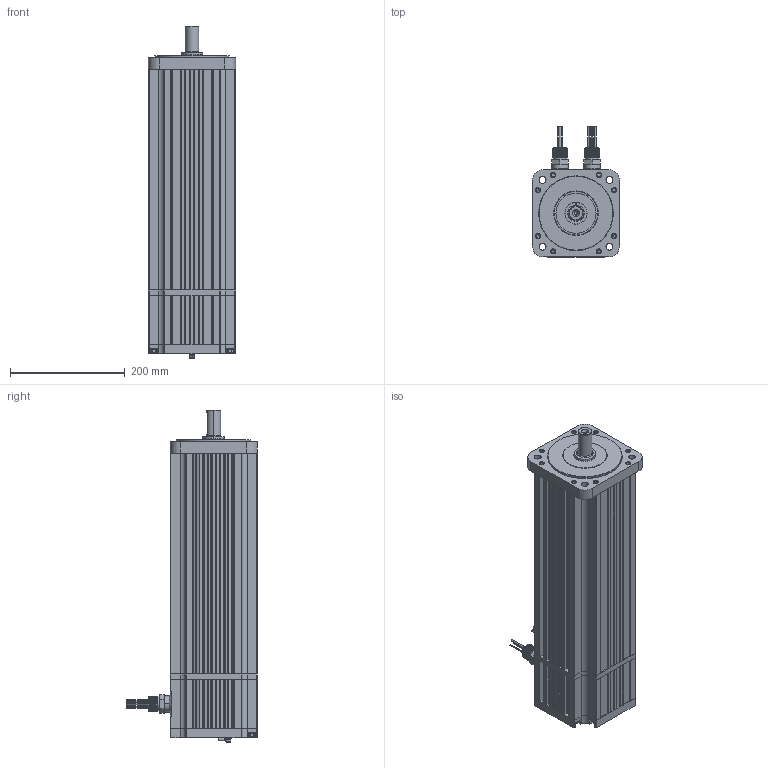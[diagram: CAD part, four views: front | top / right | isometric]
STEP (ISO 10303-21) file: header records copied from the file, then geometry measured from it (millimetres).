
FILE_DESCRIPTION (( 'STEP AP203' ), '1' );
FILE_NAME ('M465-GNSB-B508.STEP', '2019-12-03T21:23:01', ( '' ), ( '' ), 'SwSTEP 2.0', 'SolidWorks 2016', '' );
FILE_SCHEMA (( 'CONFIG_CONTROL_DESIGN' ));
Products named in the file (1): M465-GNSB-B508
Bounding box: 152.4 x 228.22 x 579.6 mm (x, y, z)
Volume: 4536891.6 mm3; surface area: 909133.6 mm2
Topology: 52 solids, 52 shells, 2109 faces, 5055 edges, 3171 vertices
Faces by surface type: cylinder 871, plane 723, cone 344, torus 133, bspline 38
Entity records: 77380 total; most frequent: CARTESIAN_POINT 27354, DIRECTION 10994, ORIENTED_EDGE 9954, EDGE_CURVE 4977, AXIS2_PLACEMENT_3D 4278, VERTEX_POINT 3171, LINE 2438, VECTOR 2438
